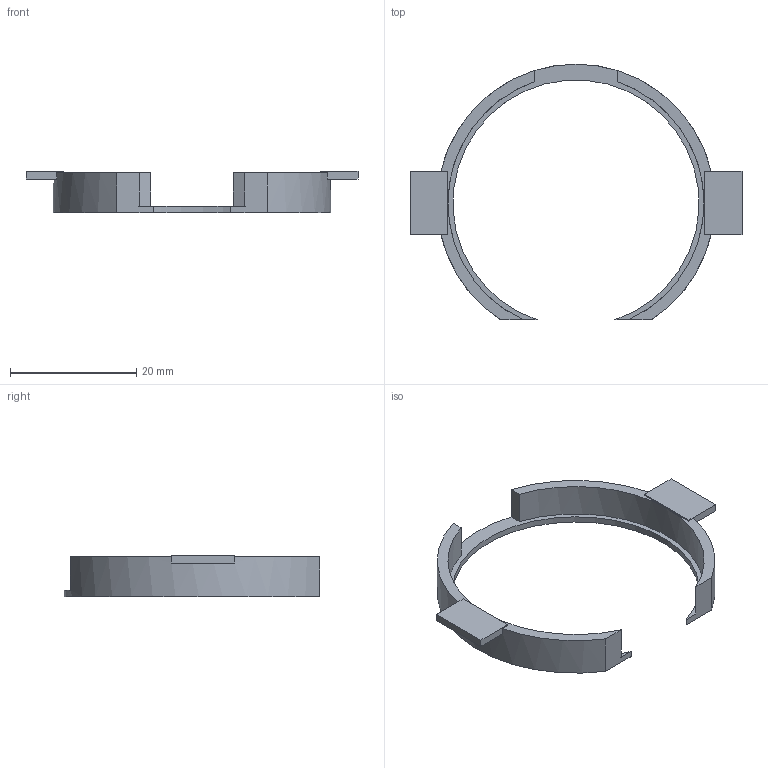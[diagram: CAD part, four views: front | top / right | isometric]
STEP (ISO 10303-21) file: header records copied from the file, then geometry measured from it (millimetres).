
FILE_DESCRIPTION(('Open CASCADE Model'),'2;1');
FILE_NAME('Open CASCADE Shape Model','2026-09-04T20:35:58',('Author'),( 'Open CASCADE'),'Open CASCADE STEP processor 7.7','Open CASCADE 7.7' ,'Unknown');
FILE_SCHEMA(('AUTOMOTIVE_DESIGN { 1 0 10303 214 1 1 1 1 }'));
Length unit declared in the file: millimetre
Products named in the file (1): Open CASCADE STEP translator 7.7 8
Bounding box: 52.6 x 40.5 x 6.5 mm (x, y, z)
Volume: 1277.6 mm3; surface area: 2102.1 mm2
Topology: 1 solids, 1 shells, 26 faces, 70 edges, 46 vertices
Faces by surface type: plane 22, cylinder 4
Entity records: 1730 total; most frequent: CARTESIAN_POINT 386, DIRECTION 232, LINE 141, VECTOR 141, ORIENTED_EDGE 140, PCURVE 140, DEFINITIONAL_REPRESENTATION 140, EDGE_CURVE 70
